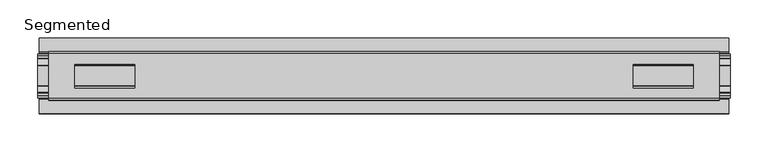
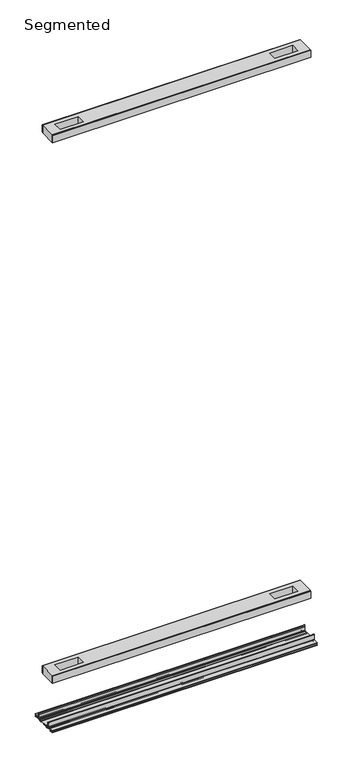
"""IFC4 building model written with IfcOpenShell, lengths in millimetres: proxy geometry, Frame-Teknion-FHCRA-Horizontal_Rail-R2022 : Segmented."""

from ifc_helpers import new_model, si_unit, point, frame, frame_2d, origin, place, context, project, spatial, polyline, circle_curve, trimmed, segment, composite_curve, outline, extrude, source, transform, mapped, element, save


def segmented_3b35d1d8(model_context):
    return source(origin(), model_context, "Body", "SweptSolid", [
        extrude(outline(polyline([(441.3467254, -29.0068005), (441.3467254, -32.1817997), (-441.3467254, -32.1817997), (-441.3467254, -29.0068005), (441.3467254, -29.0068005)])), frame((0.0, 0.0, 2107.0117561), z_axis=(0.0, 0.0, 1.0), x_axis=(1.0, 0.0, 0.0)), (0.0, 0.0, 1.0), 25.3999939),
        extrude(outline(polyline([(441.3467254, 32.1817997), (441.3467254, 29.0068005), (-441.3467254, 29.0068005), (-441.3467254, 32.1817997), (441.3467254, 32.1817997)])), frame((0.0, 0.0, 2107.0117561), z_axis=(0.0, 0.0, 1.0), x_axis=(1.0, 0.0, 0.0)), (0.0, 0.0, 1.0), 25.3999939),
        extrude(outline(polyline([(441.3467254, 29.0068005), (441.3467254, -29.0068005), (-441.3467254, -29.0068005), (-441.3467254, 29.0068005), (441.3467254, 29.0068005)]), holes=[polyline([(406.9297128, 15.1130038), (327.884901, 15.1130038), (327.884901, -15.875003), (406.9297128, -15.875003), (406.9297128, 15.1130038)]), polyline([(-406.9297128, 15.1130038), (-406.9297128, -15.875003), (-327.884901, -15.875003), (-327.884901, 15.1130038), (-406.9297128, 15.1130038)])]), frame((0.0, 0.0, 2105.5901786), z_axis=(0.0, 0.0, 1.0), x_axis=(1.0, 0.0, 0.0)), (0.0, 0.0, 1.0), 27.9999988),
        extrude(outline(polyline([(441.3467254, -29.0068005), (441.3467254, -32.1817997), (-441.3467254, -32.1817997), (-441.3467254, -29.0068005), (441.3467254, -29.0068005)])), frame((0.0, 0.0, 149.8401622), z_axis=(0.0, 0.0, 1.0), x_axis=(1.0, 0.0, 0.0)), (0.0, 0.0, 1.0), 25.3999939),
        extrude(outline(polyline([(441.3467254, 32.1817997), (441.3467254, 29.0068005), (-441.3467254, 29.0068005), (-441.3467254, 32.1817997), (441.3467254, 32.1817997)])), frame((0.0, 0.0, 149.8401622), z_axis=(0.0, 0.0, 1.0), x_axis=(1.0, 0.0, 0.0)), (0.0, 0.0, 1.0), 25.3999939),
        extrude(outline(polyline([(441.3467254, 29.0068005), (441.3467254, -29.0068005), (-441.3467254, -29.0068005), (-441.3467254, 29.0068005), (441.3467254, 29.0068005)]), holes=[polyline([(406.9297128, 15.1130038), (327.884901, 15.1130038), (327.884901, -15.875003), (406.9297128, -15.875003), (406.9297128, 15.1130038)]), polyline([(-406.9297128, 15.1130038), (-406.9297128, -15.875003), (-327.884901, -15.875003), (-327.884901, 15.1130038), (-406.9297128, 15.1130038)])]), frame((0.0, 0.0, 148.4185847), z_axis=(0.0, 0.0, 1.0), x_axis=(1.0, 0.0, 0.0)), (0.0, 0.0, 1.0), 27.9999988),
        extrude(outline(composite_curve([segment(polyline([(-28.8162961, -7.7516037), (-28.8162961, 9.8607558)]), True, "CONTINUOUS"), segment(trimmed(circle_curve(frame_2d((-27.5970982, 9.8607558)), 1.2191979), [point((-28.8162961, 9.8607558))], [point((-26.3779003, 9.8607558))], False, "CARTESIAN"), True, "CONTINUOUS"), segment(polyline([(-26.3779003, 9.8607558), (-26.3779003, 5.9999563), (-27.6580769, 5.9999563), (-27.6580769, -7.7516037)]), True, "CONTINUOUS"), segment(trimmed(circle_curve(frame_2d((-26.6420561, -7.7516037)), 1.0160208), [point((-27.6580769, -7.7516037))], [point((-26.6485732, -8.7676036))], True, "CARTESIAN"), True, "CONTINUOUS"), segment(polyline([(-26.6485732, -8.7676036), (-22.7056226, -8.7676036), (-21.7922609, -8.968753)]), True, "CONTINUOUS"), segment(trimmed(circle_curve(frame_2d((-17.7673021, -6.1259382)), 4.9276657), [point((-21.7922609, -8.968753))], [point((-13.7423434, -8.968753))], True, "CARTESIAN"), True, "CONTINUOUS"), segment(polyline([(-13.7423434, -8.968753), (-12.8289726, -8.7676036), (13.2099722, -8.7676036), (14.123343, -8.968753)]), True, "CONTINUOUS"), segment(trimmed(circle_curve(frame_2d((18.1483018, -6.1259382)), 4.9276657), [point((14.123343, -8.968753))], [point((22.1732605, -8.968753))], True, "CARTESIAN"), True, "CONTINUOUS"), segment(polyline([(22.1732605, -8.968753), (23.0866222, -8.7676036), (27.0295728, -8.7676036)]), True, "CONTINUOUS"), segment(trimmed(circle_curve(frame_2d((27.0230557, -7.7516037)), 1.0160208), [point((27.0295728, -8.7676036))], [point((28.0390765, -7.7516037))], True, "CARTESIAN"), True, "CONTINUOUS"), segment(polyline([(28.0390765, -7.7516037), (28.0390765, 5.9999563), (26.7588999, 5.9999563), (26.7588999, 9.8607558)]), True, "CONTINUOUS"), segment(trimmed(circle_curve(frame_2d((27.9780978, 9.8607558)), 1.2191979), [point((26.7588999, 9.8607558))], [point((29.1972958, 9.8607558))], False, "CARTESIAN"), True, "CONTINUOUS"), segment(polyline([(29.1972958, 9.8607558), (29.1972958, -7.7516037)]), True, "CONTINUOUS"), segment(trimmed(circle_curve(frame_2d((27.0230557, -7.7516037)), 2.17424), [point((29.1972958, -7.7516037))], [point((27.0230557, -9.9258438))], False, "CARTESIAN"), True, "CONTINUOUS"), segment(polyline([(27.0230557, -9.9258438), (22.732069, -9.9258438)]), True, "CONTINUOUS"), segment(trimmed(circle_curve(frame_2d((18.1516545, -6.4800016)), 5.7318431), [point((22.732069, -9.9258438))], [point((13.57124, -9.9258438))], False, "CARTESIAN"), True, "CONTINUOUS"), segment(polyline([(13.57124, -9.9258438), (-13.1902404, -9.9258438)]), True, "CONTINUOUS"), segment(trimmed(circle_curve(frame_2d((-17.7706549, -6.4800016)), 5.7318431), [point((-13.1902404, -9.9258438))], [point((-22.3510694, -9.9258438))], False, "CARTESIAN"), True, "CONTINUOUS"), segment(polyline([(-22.3510694, -9.9258438), (-26.6420561, -9.9258438)]), True, "CONTINUOUS"), segment(trimmed(circle_curve(frame_2d((-26.6420561, -7.7516037)), 2.17424), [point((-26.6420561, -9.9258438))], [point((-28.8162961, -7.7516037))], False, "CARTESIAN"), True, "CONTINUOUS")], self_intersect=False)), frame((-455.4056163, 0.0, 0.0), z_axis=(1.0, 0.0, 0.0), x_axis=(0.0, 1.0, 0.0)), (0.0, 0.0, 1.0), 910.8112326),
        extrude(outline(composite_curve([segment(polyline([(-50.2668422, -13.9898438), (-50.2240211, -12.3388438), (-39.7827507, -12.3388438), (-39.7827507, -7.766844), (-50.2240211, -7.766844), (-50.2668422, -6.1158439), (-31.1784975, -6.1158439)]), True, "CONTINUOUS"), segment(trimmed(circle_curve(frame_2d((-31.1784975, -7.6398436)), 1.5239997), [point((-31.1784975, -6.1158439))], [point((-29.6544978, -7.6398436))], False, "CARTESIAN"), True, "CONTINUOUS"), segment(polyline([(-29.6544978, -7.6398436), (-29.6544978, -9.9258438), (-23.1058344, -9.9258438)]), True, "CONTINUOUS"), segment(trimmed(circle_curve(frame_2d((-17.7673021, -5.2268471)), 7.1119966), [point((-23.1058344, -9.9258438))], [point((-12.4287699, -9.9258438))], True, "CARTESIAN"), True, "CONTINUOUS"), segment(polyline([(-12.4287699, -9.9258438), (12.8097695, -9.9258438)]), True, "CONTINUOUS"), segment(trimmed(circle_curve(frame_2d((18.1483018, -5.2268471)), 7.1119966), [point((12.8097695, -9.9258438))], [point((23.486834, -9.9258438))], True, "CARTESIAN"), True, "CONTINUOUS"), segment(polyline([(23.486834, -9.9258438), (30.0354975, -9.9258438), (30.0354975, -7.7656583)]), True, "CONTINUOUS"), segment(trimmed(circle_curve(frame_2d((31.6864982, -7.7656583)), 1.6510007), [point((30.0354975, -7.7656583))], [point((31.6239218, -6.1158439))], False, "CARTESIAN"), True, "CONTINUOUS"), segment(polyline([(31.6239218, -6.1158439), (50.00625, -6.1158439), (50.00625, -7.766844), (40.1637503, -7.766844), (40.1637503, -12.3388438), (50.00625, -12.3388438), (50.00625, -13.9898438), (40.0367518, -13.9898438)]), True, "CONTINUOUS"), segment(trimmed(circle_curve(frame_2d((40.0367518, -12.4658438)), 1.524), [point((40.0367518, -13.9898438))], [point((38.5127519, -12.4658438))], False, "CARTESIAN"), True, "CONTINUOUS"), segment(polyline([(38.5127519, -12.4658438), (38.5127519, -7.766844), (31.686497, -7.766844), (31.686497, -10.0528438)]), True, "CONTINUOUS"), segment(trimmed(circle_curve(frame_2d((30.1624971, -10.0528438)), 1.524), [point((31.686497, -10.0528438))], [point((30.1624971, -11.5768438))], False, "CARTESIAN"), True, "CONTINUOUS"), segment(polyline([(30.1624971, -11.5768438), (23.6563549, -11.5768438)]), True, "CONTINUOUS"), segment(trimmed(circle_curve(frame_2d((18.1483018, -6.4968436)), 7.4930002), [point((23.6563549, -11.5768438))], [point((12.8904968, -11.8354331))], False, "CARTESIAN"), True, "CONTINUOUS"), segment(polyline([(12.8904968, -11.8354331), (-12.5094972, -11.8354331)]), True, "CONTINUOUS"), segment(trimmed(circle_curve(frame_2d((-17.7673021, -6.4968436)), 7.4930002), [point((-12.5094972, -11.8354331))], [point((-23.2753553, -11.5768438))], False, "CARTESIAN"), True, "CONTINUOUS"), segment(polyline([(-23.2753553, -11.5768438), (-29.7814974, -11.5768438)]), True, "CONTINUOUS"), segment(trimmed(circle_curve(frame_2d((-29.7814974, -10.0528438)), 1.524), [point((-29.7814974, -11.5768438))], [point((-31.3054974, -10.0528438))], False, "CARTESIAN"), True, "CONTINUOUS"), segment(polyline([(-31.3054974, -10.0528438), (-31.3054974, -7.766844), (-38.1317522, -7.766844), (-38.1317522, -12.4658438)]), True, "CONTINUOUS"), segment(trimmed(circle_curve(frame_2d((-39.6557522, -12.4658438)), 1.524), [point((-38.1317522, -12.4658438))], [point((-39.6557522, -13.9898438))], False, "CARTESIAN"), True, "CONTINUOUS"), segment(polyline([(-39.6557522, -13.9898438), (-50.2668422, -13.9898438)]), True, "CONTINUOUS")], self_intersect=False)), frame((-453.7546163, 0.0, 0.0), z_axis=(1.0, 0.0, 0.0), x_axis=(0.0, 1.0, 0.0)), (0.0, 0.0, 1.0), 907.5092326),
    ])


if __name__ == "__main__":
    model = new_model("IFC4")
    model_context = context("Model", 3, world=origin())
    ifc_project = project(units=[si_unit("LENGTHUNIT", "METRE", prefix="MILLI")], contexts=[model_context])
    site = spatial("IfcSite", under=ifc_project)
    building = spatial("IfcBuilding", under=site)
    placement = place(None, origin())
    segmented_shape = segmented_3b35d1d8(model_context)
    element("IfcBuildingElementProxy", 1, Name="Frame-Teknion-FHCRA-Horizontal_Rail-R2022 : Segmented", ObjectType="Frame-Teknion-FHCRA-Horizontal_Rail-R2022 : Segmented", at=placement, inside=building, context=model_context, shape_type="MappedRepresentation", body=[
        mapped(segmented_shape, transform((0.0, 0.0, 0.0), x_axis=(1.0, 0.0, 0.0), y_axis=(0.0, 1.0, 0.0), z_axis=(0.0, 0.0, 1.0))),
    ])
    save(model, "model.ifc")
